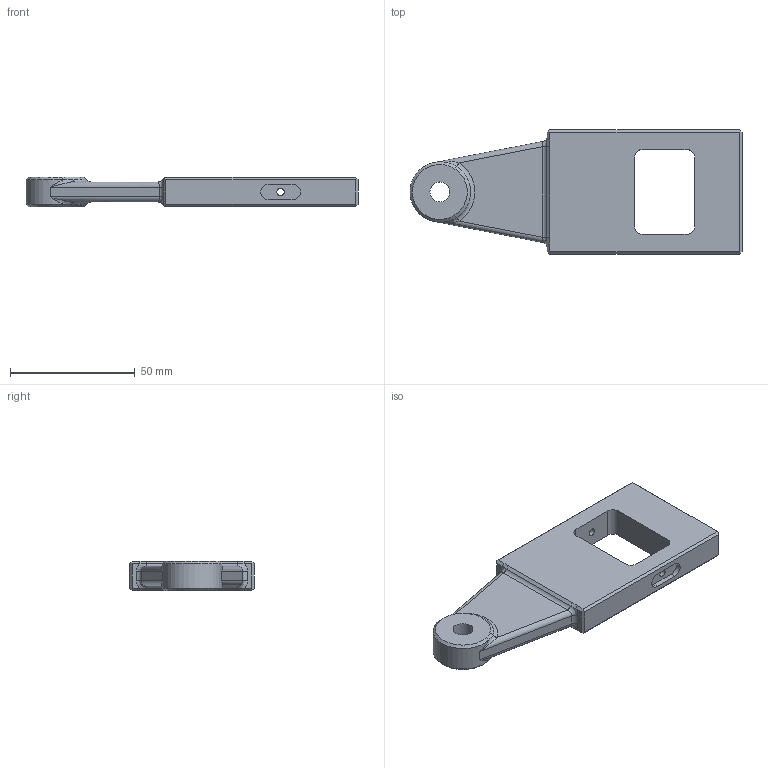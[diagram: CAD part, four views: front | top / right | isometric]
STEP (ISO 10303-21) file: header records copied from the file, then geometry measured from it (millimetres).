
FILE_DESCRIPTION(/* description */ (''),/* implementation_level */ '2;1');
FILE_NAME(/* name */ '',/* time_stamp */ '2025-06-27T16:34:18+09:00',/* author */ ('jhkim'),/* organization */ (''),/* preprocessor_version */ 'ST-DEVELOPER v20.1',/* originating_system */ 'Autodesk Inventor 2026',/* authorisation */ '');
FILE_SCHEMA (('AUTOMOTIVE_DESIGN { 1 0 10303 214 3 1 1 }'));
Length unit declared in the file: millimetre
Products named in the file (1): 로드
Bounding box: 132.95 x 50 x 12 mm (x, y, z)
Volume: 50608.5 mm3; surface area: 14611.7 mm2
Topology: 1 solids, 1 shells, 81 faces, 203 edges, 122 vertices
Faces by surface type: plane 39, cylinder 20, bspline 16, cone 4, torus 2
Full cylindrical faces by diameter (mm): 3 x2, 8 x1
Entity records: 2877 total; most frequent: CARTESIAN_POINT 968, ORIENTED_EDGE 398, DIRECTION 359, EDGE_CURVE 199, LINE 123, VECTOR 123, VERTEX_POINT 122, AXIS2_PLACEMENT_3D 118
